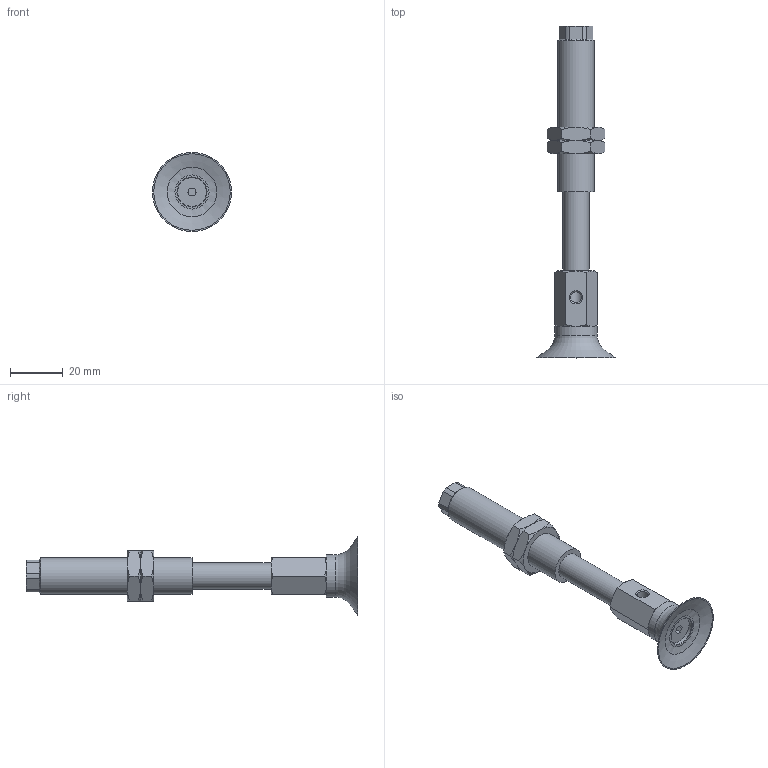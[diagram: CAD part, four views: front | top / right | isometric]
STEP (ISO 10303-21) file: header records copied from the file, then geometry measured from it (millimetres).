
FILE_DESCRIPTION(('STEP AP203'),'1');
FILE_NAME('.stp','2025-04-09T07:20:55',(' '),(' '),'Spatial InterOp 3D',' ',' ');
FILE_SCHEMA(('CONFIG_CONTROL_DESIGN'));
Length unit declared in the file: millimetre
Products named in the file (7): BNABPFYS-30-30-※; TN-PF-30-M6-NAPF; CONNECTOR-30-30; Nut-30-30-s; NAPFTS-30-30-FBODY; NAPFTS-30-30-MBODY; BPFG-30-※
Assembly tree (7 placements, depth 2):
  BNABPFYS-30-30-※
    TN-PF-30-M6-NAPF
    CONNECTOR-30-30
    Nut-30-30-s  x2
    NAPFTS-30-30-FBODY
    NAPFTS-30-30-MBODY
    BPFG-30-※
Bounding box: 30 x 126 x 30 mm (x, y, z)
Volume: 19014 mm3; surface area: 14597.5 mm2
Topology: 7 solids, 7 shells, 145 faces, 304 edges, 183 vertices
Faces by surface type: plane 66, cone 51, cylinder 22, torus 5, bspline 1
Full cylindrical faces by diameter (mm): 3 x2, 4.134 x2, 4.917 x1, 5 x1, 6 x2, 10 x2, 11 x2, 12.917 x2, 14 x1, 16 x1
Entity records: 3727 total; most frequent: CARTESIAN_POINT 924, DIRECTION 518, ORIENTED_EDGE 442, EDGE_CURVE 221, AXIS2_PLACEMENT_3D 219, EDGE_LOOP 176, VERTEX_POINT 153, FACE_OUTER_BOUND 143
